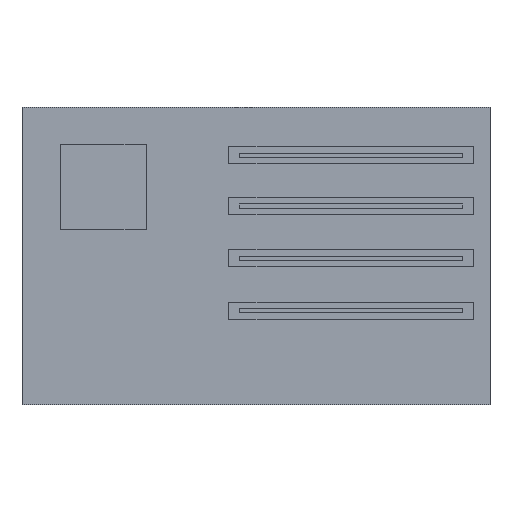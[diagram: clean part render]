
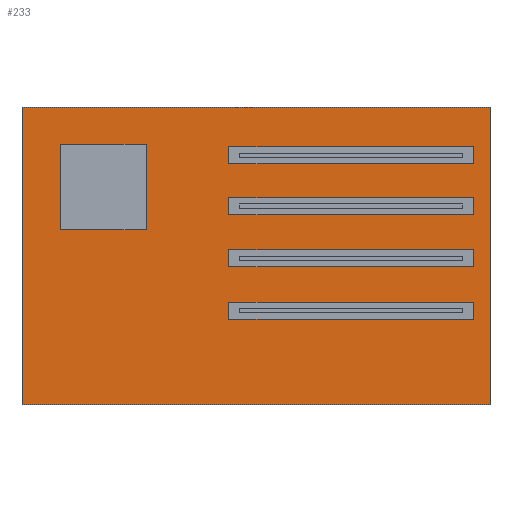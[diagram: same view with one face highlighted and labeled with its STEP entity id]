
A CAD part, top view. The second image highlights one B-rep face of the part: STEP entity #233.
In plain terms, the highlighted planar face has unit normal (0, 0, 1).
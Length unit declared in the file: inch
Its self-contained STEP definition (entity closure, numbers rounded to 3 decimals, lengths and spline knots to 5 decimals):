
#11 = EDGE_LOOP ( 'NONE', ( #341, #342, #343, #344 ) ) ;
#46 = VERTEX_POINT ( 'NONE', #108 ) ;
#47 = VERTEX_POINT ( 'NONE', #109 ) ;
#49 = VERTEX_POINT ( 'NONE', #111 ) ;
#51 = VERTEX_POINT ( 'NONE', #113 ) ;
#108 = CARTESIAN_POINT ( 'NONE',  ( -2.13701, -5.47597, 0.1 ) ) ;
#109 = CARTESIAN_POINT ( 'NONE',  ( -2.13701, 1.52403, 0.1 ) ) ;
#111 = CARTESIAN_POINT ( 'NONE',  ( 8.86299, -5.47597, 0.1 ) ) ;
#113 = CARTESIAN_POINT ( 'NONE',  ( 8.86299, 1.52403, 0.1 ) ) ;
#233 = ADVANCED_FACE ( 'NONE', ( #441 ), #507, .T. ) ;
#269 = EDGE_CURVE ( 'NONE', #47, #46, #620, .T. ) ;
#273 = EDGE_CURVE ( 'NONE', #46, #49, #628, .T. ) ;
#276 = EDGE_CURVE ( 'NONE', #49, #51, #634, .T. ) ;
#278 = EDGE_CURVE ( 'NONE', #51, #47, #638, .T. ) ;
#300 = AXIS2_PLACEMENT_3D ( 'NONE', #508, #509, #510 ) ;
#341 = ORIENTED_EDGE ( 'NONE', *, *, #269, .T. ) ;
#342 = ORIENTED_EDGE ( 'NONE', *, *, #273, .T. ) ;
#343 = ORIENTED_EDGE ( 'NONE', *, *, #276, .T. ) ;
#344 = ORIENTED_EDGE ( 'NONE', *, *, #278, .T. ) ;
#441 = FACE_OUTER_BOUND ( 'NONE', #11, .T. ) ;
#507 = PLANE ( 'NONE',  #300 ) ;
#508 = CARTESIAN_POINT ( 'NONE',  ( -2.13701, -5.47597, 0.1 ) ) ;
#509 = DIRECTION ( 'NONE',  ( 0., 0., 1. ) ) ;
#510 = DIRECTION ( 'NONE',  ( 1., 0., 0. ) ) ;
#620 = LINE ( 'NONE', #686, #621 ) ;
#621 = VECTOR ( 'NONE', #687, 39.37008 ) ;
#628 = LINE ( 'NONE', #694, #629 ) ;
#629 = VECTOR ( 'NONE', #695, 39.37008 ) ;
#634 = LINE ( 'NONE', #700, #635 ) ;
#635 = VECTOR ( 'NONE', #701, 39.37008 ) ;
#638 = LINE ( 'NONE', #704, #639 ) ;
#639 = VECTOR ( 'NONE', #705, 39.37008 ) ;
#686 = CARTESIAN_POINT ( 'NONE',  ( -2.13701, 1.52403, 0.1 ) ) ;
#687 = DIRECTION ( 'NONE',  ( 0., -1., 0. ) ) ;
#694 = CARTESIAN_POINT ( 'NONE',  ( -2.13701, -5.47597, 0.1 ) ) ;
#695 = DIRECTION ( 'NONE',  ( 1., 0., 0. ) ) ;
#700 = CARTESIAN_POINT ( 'NONE',  ( 8.86299, 1.52403, 0.1 ) ) ;
#701 = DIRECTION ( 'NONE',  ( 0., 1., 0. ) ) ;
#704 = CARTESIAN_POINT ( 'NONE',  ( -2.13701, 1.52403, 0.1 ) ) ;
#705 = DIRECTION ( 'NONE',  ( -1., 0., 0. ) ) ;
